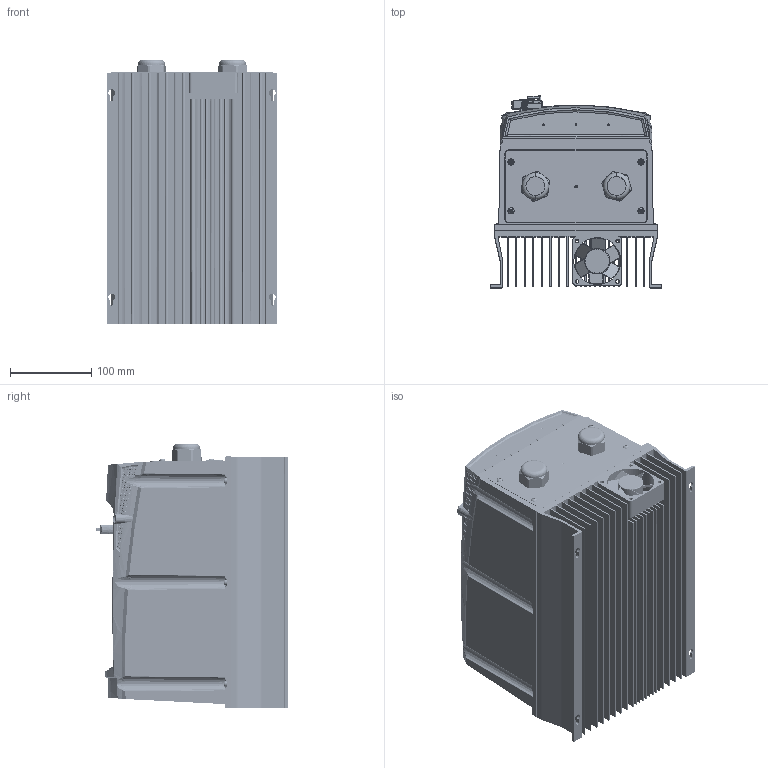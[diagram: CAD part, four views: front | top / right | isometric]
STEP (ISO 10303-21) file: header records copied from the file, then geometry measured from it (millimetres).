
FILE_DESCRIPTION(('CATIA V5 STEP 214'),'2;1');
FILE_NAME('C:\Temp\ddxv7\402843\VERTIMO SIZE C.stp','2019-05-07T07:36:30+00:00',('Leopold Kostal'),('Kostal GmbH'),'CATIA Version 5 Release 19 SP 9 (IN-10)','CATIA V5 STEP AP214','none');
FILE_SCHEMA(('AUTOMOTIVE_DESIGN { 1 0 10303 214 1 1 1 1 }'));
Products named in the file (1): VERTIMO SIZE C
Bounding box: 210.5 x 236.01 x 325.78 mm (x, y, z)
Volume: 5842926.4 mm3; surface area: 1446016.9 mm2
Topology: 1 solids, 1 shells, 7349 faces, 23266 edges, 14710 vertices
Faces by surface type: sphere 2820, cylinder 1900, bspline 1046, plane 937, cone 423, torus 223
Entity records: 374084 total; most frequent: CARTESIAN_POINT 157400, ORIENTED_EDGE 43192, EDGE_CURVE 21596, DIRECTION 20746, VERTEX_POINT 14710, B_SPLINE_CURVE_WITH_KNOTS 12544, AXIS2_PLACEMENT_3D 10965, EDGE_LOOP 7862
